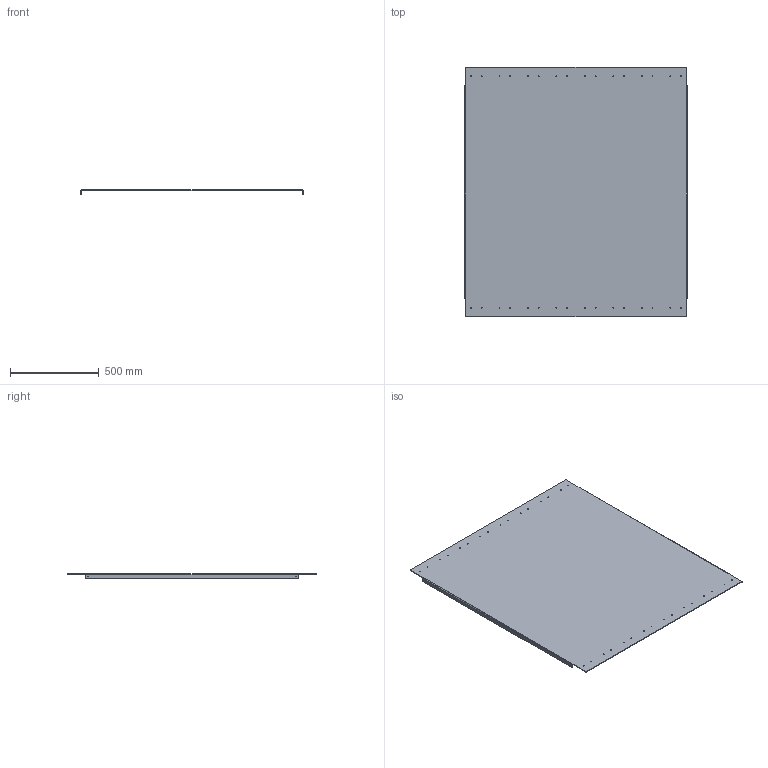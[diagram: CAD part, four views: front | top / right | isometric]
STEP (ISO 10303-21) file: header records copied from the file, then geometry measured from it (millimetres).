
FILE_DESCRIPTION(('HOOPS Exchange Step'),'2;1');
FILE_NAME('/private/var/mobile/Containers/Data/Application/E4481369-A8C6-45C6-A958-B1853E49479D/tmp/export/temp_export','2021-04-12T21:13:01+00:00',('mobile'),('Shapr3D Limited'),'HOOPS Exchange 2020.2','Shapr3D','Authorized');
FILE_SCHEMA( ('AP203_CONFIGURATION_CONTROLLED_3D_DESIGN_OF_MECHANICAL_PARTS_AND_ASSEMBLIES_MIM_LF') );
Length unit declared in the file: millimetre
Products named in the file (2): 0; /private/var/mobile/Containers/Data/Application/E4481369-A8C6-45C6-A958-B1853E49479D/tmp/09A9FBAA-BCD3-4277-8C80-1493883B8725.tmp
Assembly tree (1 placements, depth 2):
  /private/var/mobile/Containers/Data/Application/E4481369-A8C6-45C6-A958-B1853E49479D/tmp/09A9FBAA-BCD3-4277-8C80-1493883B8725.tmp
    0
Bounding box: 1250 x 1400 x 24 mm (x, y, z)
Volume: 7167056.3 mm3; surface area: 3607366.2 mm2
Topology: 1 solids, 1 shells, 66 faces, 224 edges, 160 vertices
Faces by surface type: cylinder 48, plane 18
Full cylindrical faces by diameter (mm): 5.2 x36
Entity records: 2751 total; most frequent: DIRECTION 498, CARTESIAN_POINT 453, ORIENTED_EDGE 448, EDGE_CURVE 224, AXIS2_PLACEMENT_3D 205, VERTEX_POINT 160, EDGE_LOOP 138, FACE_BOUND 138
